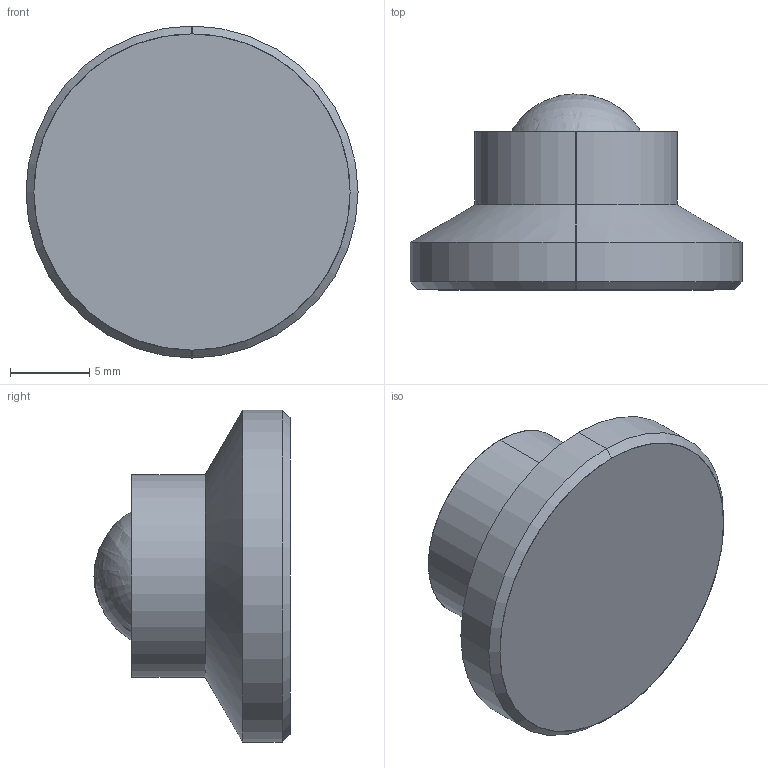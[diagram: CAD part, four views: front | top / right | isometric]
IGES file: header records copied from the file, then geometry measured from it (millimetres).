
Start section: SolidWorks IGES file using analytic representation for surfaces
Global section: file name: C:\Documents and Settings\IanO.IANOHOME\My Documents\Wix and Auto CAD Work\CAD Models\Parametric Models\Wix Models\34530\34530_IGES\34530.W0021.igs; native system: SolidWorks 2009; preprocessor: SolidWorks 2009; author: IanO; date: 110803.110655; units: millimetre
Bounding box: 21 x 12.4 x 21 mm (x, y, z)
Surface area: 1397.3 mm2 (no closed solid volume)
Topology: 0 solids, 0 shells, 14 faces, 180 edges, 176 vertices
Faces by surface type: revolution 12, bspline 2
